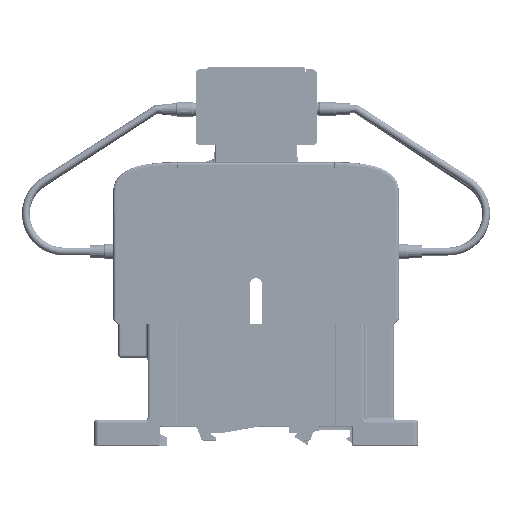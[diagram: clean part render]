
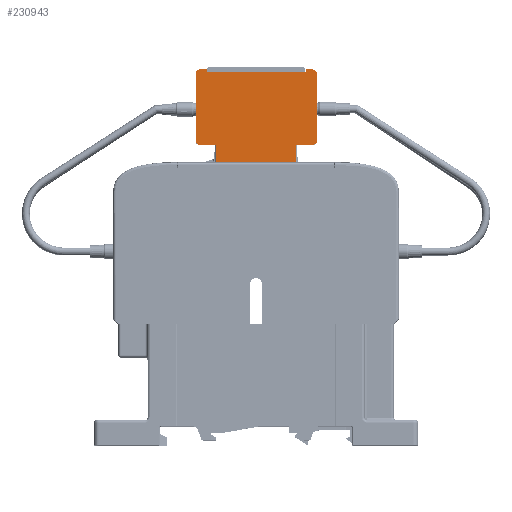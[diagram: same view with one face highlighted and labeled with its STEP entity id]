
A CAD part, top view. The second image highlights one B-rep face of the part: STEP entity #230943.
In plain terms, the highlighted planar face has unit normal (0, 0, 1).
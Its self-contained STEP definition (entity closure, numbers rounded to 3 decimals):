
#219892=DIRECTION('',(1.,0.,0.));
#219893=VECTOR('',#219892,31.2);
#219894=CARTESIAN_POINT('',(-15.5,63.5,28.));
#219895=LINE('',#219894,#219893);
#220065=DIRECTION('',(1.,0.,0.));
#220066=VECTOR('',#220065,0.45);
#220067=CARTESIAN_POINT('',(-19.7,100.3,28.));
#220068=LINE('',#220067,#220066);
#220201=DIRECTION('',(1.,0.,0.));
#220202=VECTOR('',#220201,0.45);
#220203=CARTESIAN_POINT('',(19.45,100.3,28.));
#220204=LINE('',#220203,#220202);
#220213=CARTESIAN_POINT('',(22.4,72.,28.));
#220214=DIRECTION('',(0.,0.,1.));
#220215=DIRECTION('',(0.,-1.,0.));
#220216=AXIS2_PLACEMENT_3D('',#220213,#220214,#220215);
#220218=DIRECTION('',(0.,1.,0.));
#220219=VECTOR('',#220218,7.);
#220220=CARTESIAN_POINT('',(15.7,63.5,28.));
#220221=LINE('',#220220,#220219);
#220222=DIRECTION('',(0.,-1.,0.));
#220223=VECTOR('',#220222,7.);
#220224=CARTESIAN_POINT('',(-15.5,70.5,28.));
#220225=LINE('',#220224,#220223);
#220226=CARTESIAN_POINT('',(-22.2,72.,28.));
#220227=DIRECTION('',(0.,0.,1.));
#220228=DIRECTION('',(-1.,0.,0.));
#220229=AXIS2_PLACEMENT_3D('',#220226,#220227,#220228);
#220231=DIRECTION('',(0.,1.,0.));
#220232=VECTOR('',#220231,26.3);
#220233=CARTESIAN_POINT('',(-23.7,72.,28.));
#220234=LINE('',#220233,#220232);
#220235=CARTESIAN_POINT('',(-19.7,100.3,28.));
#220236=CARTESIAN_POINT('',(-19.95,100.3,28.));
#220237=CARTESIAN_POINT('',(-20.438,100.288,28.));
#220238=CARTESIAN_POINT('',(-21.13,100.23,28.));
#220239=CARTESIAN_POINT('',(-21.774,100.124,28.));
#220240=CARTESIAN_POINT('',(-22.361,99.961,28.));
#220241=CARTESIAN_POINT('',(-22.791,99.766,28.));
#220242=CARTESIAN_POINT('',(-23.09,99.565,28.));
#220243=CARTESIAN_POINT('',(-23.288,99.388,28.));
#220244=CARTESIAN_POINT('',(-23.456,99.181,28.));
#220245=CARTESIAN_POINT('',(-23.588,98.938,28.));
#220246=CARTESIAN_POINT('',(-23.677,98.652,28.));
#220247=CARTESIAN_POINT('',(-23.7,98.425,28.));
#220248=CARTESIAN_POINT('',(-23.7,98.3,28.));
#220250=DIRECTION('',(0.,-1.,0.));
#220251=VECTOR('',#220250,1.2);
#220252=CARTESIAN_POINT('',(-19.25,100.3,28.));
#220253=LINE('',#220252,#220251);
#220254=DIRECTION('',(1.,0.,0.));
#220255=VECTOR('',#220254,38.7);
#220256=CARTESIAN_POINT('',(-19.25,99.1,28.));
#220257=LINE('',#220256,#220255);
#220258=DIRECTION('',(0.,1.,0.));
#220259=VECTOR('',#220258,1.2);
#220260=CARTESIAN_POINT('',(19.45,99.1,28.));
#220261=LINE('',#220260,#220259);
#220262=CARTESIAN_POINT('',(23.9,98.3,28.));
#220263=CARTESIAN_POINT('',(23.9,98.425,28.));
#220264=CARTESIAN_POINT('',(23.877,98.652,28.));
#220265=CARTESIAN_POINT('',(23.788,98.938,28.));
#220266=CARTESIAN_POINT('',(23.656,99.181,28.));
#220267=CARTESIAN_POINT('',(23.488,99.388,28.));
#220268=CARTESIAN_POINT('',(23.29,99.565,28.));
#220269=CARTESIAN_POINT('',(22.991,99.766,28.));
#220270=CARTESIAN_POINT('',(22.561,99.961,28.));
#220271=CARTESIAN_POINT('',(21.974,100.124,28.));
#220272=CARTESIAN_POINT('',(21.33,100.23,28.));
#220273=CARTESIAN_POINT('',(20.638,100.288,28.));
#220274=CARTESIAN_POINT('',(20.15,100.3,28.));
#220275=CARTESIAN_POINT('',(19.9,100.3,28.));
#220464=DIRECTION('',(0.,1.,0.));
#220465=VECTOR('',#220464,26.3);
#220466=CARTESIAN_POINT('',(23.9,72.,28.));
#220467=LINE('',#220466,#220465);
#225431=DIRECTION('',(1.,0.,0.));
#225432=VECTOR('',#225431,6.7);
#225433=CARTESIAN_POINT('',(15.7,70.5,28.));
#225434=LINE('',#225433,#225432);
#225483=DIRECTION('',(1.,0.,0.));
#225484=VECTOR('',#225483,6.7);
#225485=CARTESIAN_POINT('',(-22.2,70.5,28.));
#225486=LINE('',#225485,#225484);
#227774=CARTESIAN_POINT('',(19.45,99.1,28.));
#227775=CARTESIAN_POINT('',(-19.25,99.1,28.));
#227776=VERTEX_POINT('',#227774);
#227777=VERTEX_POINT('',#227775);
#227778=CARTESIAN_POINT('',(19.45,100.3,28.));
#227779=VERTEX_POINT('',#227778);
#227780=CARTESIAN_POINT('',(-19.25,100.3,28.));
#227781=VERTEX_POINT('',#227780);
#228708=VERTEX_POINT('',#220235);
#228709=VERTEX_POINT('',#220248);
#228755=CARTESIAN_POINT('',(23.9,98.3,28.));
#228756=VERTEX_POINT('',#228755);
#228757=VERTEX_POINT('',#220275);
#229886=CARTESIAN_POINT('',(22.4,70.5,28.));
#229887=VERTEX_POINT('',#229886);
#229888=CARTESIAN_POINT('',(23.9,72.,28.));
#229889=VERTEX_POINT('',#229888);
#229938=CARTESIAN_POINT('',(-23.7,72.,28.));
#229939=CARTESIAN_POINT('',(-22.2,70.5,28.));
#229940=VERTEX_POINT('',#229938);
#229941=VERTEX_POINT('',#229939);
#230061=CARTESIAN_POINT('',(-15.5,63.5,28.));
#230063=VERTEX_POINT('',#230061);
#230067=CARTESIAN_POINT('',(-15.5,70.5,28.));
#230068=VERTEX_POINT('',#230067);
#230081=CARTESIAN_POINT('',(15.7,63.5,28.));
#230082=VERTEX_POINT('',#230081);
#230083=CARTESIAN_POINT('',(15.7,70.5,28.));
#230084=VERTEX_POINT('',#230083);
#230907=CARTESIAN_POINT('',(-23.7,63.5,28.));
#230908=DIRECTION('',(0.,0.,1.));
#230909=DIRECTION('',(1.,0.,0.));
#230910=AXIS2_PLACEMENT_3D('',#230907,#230908,#230909);
#230911=PLANE('',#230910);
#230913=ORIENTED_EDGE('',*,*,#230912,.F.);
#230915=ORIENTED_EDGE('',*,*,#230914,.F.);
#230917=ORIENTED_EDGE('',*,*,#230916,.F.);
#230918=ORIENTED_EDGE('',*,*,#230532,.F.);
#230920=ORIENTED_EDGE('',*,*,#230919,.F.);
#230922=ORIENTED_EDGE('',*,*,#230921,.F.);
#230924=ORIENTED_EDGE('',*,*,#230923,.F.);
#230926=ORIENTED_EDGE('',*,*,#230925,.T.);
#230928=ORIENTED_EDGE('',*,*,#230927,.F.);
#230929=ORIENTED_EDGE('',*,*,#230688,.T.);
#230931=ORIENTED_EDGE('',*,*,#230930,.T.);
#230933=ORIENTED_EDGE('',*,*,#230932,.T.);
#230935=ORIENTED_EDGE('',*,*,#230934,.T.);
#230936=ORIENTED_EDGE('',*,*,#230891,.T.);
#230938=ORIENTED_EDGE('',*,*,#230937,.F.);
#230940=ORIENTED_EDGE('',*,*,#230939,.F.);
#230941=EDGE_LOOP('',(#230913,#230915,#230917,#230918,#230920,#230922,#230924,
#230926,#230928,#230929,#230931,#230933,#230935,#230936,#230938,#230940));
#230942=FACE_OUTER_BOUND('',#230941,.F.);
#230943=ADVANCED_FACE('',(#230942),#230911,.T.);
#220217=CIRCLE('',#220216,1.5);
#220230=CIRCLE('',#220229,1.5);
#220249=B_SPLINE_CURVE_WITH_KNOTS('',3,(#220235,#220236,#220237,#220238,#220239,
#220240,#220241,#220242,#220243,#220244,#220245,#220246,#220247,#220248),
.UNSPECIFIED.,.F.,.F.,(4,1,1,1,1,1,1,1,1,1,1,4),(0.,0.125,0.25,0.375,
0.5,0.625,0.688,0.75,0.813,0.875,0.938,1.),.UNSPECIFIED.);
#220276=B_SPLINE_CURVE_WITH_KNOTS('',3,(#220262,#220263,#220264,#220265,#220266,
#220267,#220268,#220269,#220270,#220271,#220272,#220273,#220274,#220275),
.UNSPECIFIED.,.F.,.F.,(4,1,1,1,1,1,1,1,1,1,1,4),(0.,0.063,0.125,0.188,
0.25,0.313,0.375,0.5,0.625,0.75,0.875,1.),.UNSPECIFIED.);
#230532=EDGE_CURVE('',#230063,#230082,#219895,.T.);
#230688=EDGE_CURVE('',#228708,#227781,#220068,.T.);
#230891=EDGE_CURVE('',#227779,#228757,#220204,.T.);
#230912=EDGE_CURVE('',#229887,#229889,#220217,.T.);
#230914=EDGE_CURVE('',#230084,#229887,#225434,.T.);
#230916=EDGE_CURVE('',#230082,#230084,#220221,.T.);
#230919=EDGE_CURVE('',#230068,#230063,#220225,.T.);
#230921=EDGE_CURVE('',#229941,#230068,#225486,.T.);
#230923=EDGE_CURVE('',#229940,#229941,#220230,.T.);
#230925=EDGE_CURVE('',#229940,#228709,#220234,.T.);
#230927=EDGE_CURVE('',#228708,#228709,#220249,.T.);
#230930=EDGE_CURVE('',#227781,#227777,#220253,.T.);
#230932=EDGE_CURVE('',#227777,#227776,#220257,.T.);
#230934=EDGE_CURVE('',#227776,#227779,#220261,.T.);
#230937=EDGE_CURVE('',#228756,#228757,#220276,.T.);
#230939=EDGE_CURVE('',#229889,#228756,#220467,.T.);
